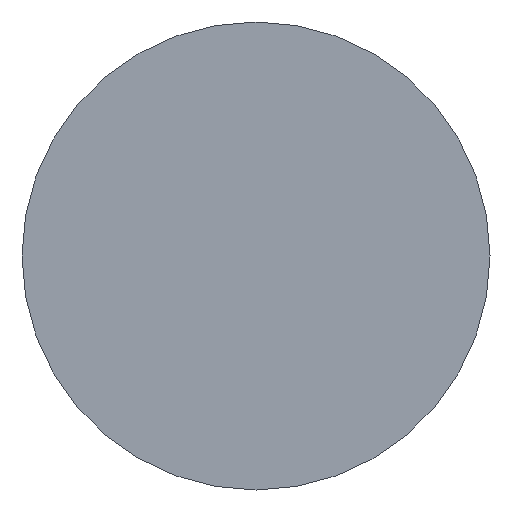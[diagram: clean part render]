
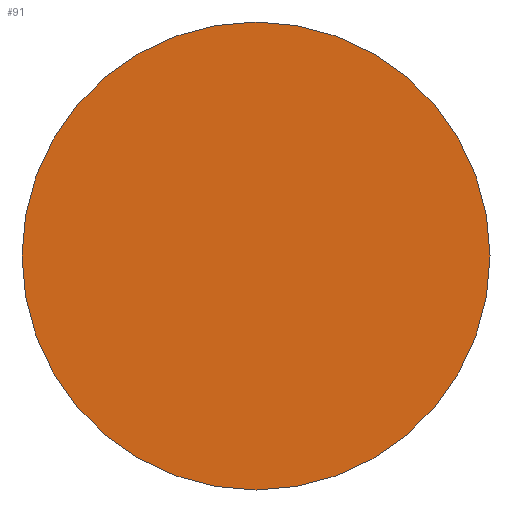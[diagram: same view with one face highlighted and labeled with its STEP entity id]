
A CAD part, left-side view. The second image highlights one B-rep face of the part: STEP entity #91.
In plain terms, the highlighted planar face has unit normal (-1, 0, 0).
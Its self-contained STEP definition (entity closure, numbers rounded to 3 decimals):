
#52=CARTESIAN_POINT('Axis2P3D Location',(0.,0.,0.)) ;
#57=CARTESIAN_POINT('Axis2P3D Location',(0.,0.,0.)) ;
#61=CARTESIAN_POINT('Vertex',(0.,0.,-19.)) ;
#63=CARTESIAN_POINT('Vertex',(0.,19.,0.)) ;
#66=CARTESIAN_POINT('Axis2P3D Location',(0.,0.,0.)) ;
#70=CARTESIAN_POINT('Vertex',(0.,-19.,0.)) ;
#73=CARTESIAN_POINT('Axis2P3D Location',(0.,0.,0.)) ;
#77=CARTESIAN_POINT('Vertex',(0.,0.,19.)) ;
#80=CARTESIAN_POINT('Axis2P3D Location',(0.,0.,0.)) ;
#53=DIRECTION('Axis2P3D Direction',(1.,0.,-0.)) ;
#54=DIRECTION('Axis2P3D XDirection',(-0.,0.,-1.)) ;
#58=DIRECTION('Axis2P3D Direction',(1.,0.,-0.)) ;
#67=DIRECTION('Axis2P3D Direction',(1.,0.,-0.)) ;
#74=DIRECTION('Axis2P3D Direction',(1.,0.,-0.)) ;
#81=DIRECTION('Axis2P3D Direction',(1.,0.,-0.)) ;
#55=AXIS2_PLACEMENT_3D('Plane Axis2P3D',#52,#53,#54) ;
#59=AXIS2_PLACEMENT_3D('Circle Axis2P3D',#57,#58,$) ;
#68=AXIS2_PLACEMENT_3D('Circle Axis2P3D',#66,#67,$) ;
#75=AXIS2_PLACEMENT_3D('Circle Axis2P3D',#73,#74,$) ;
#82=AXIS2_PLACEMENT_3D('Circle Axis2P3D',#80,#81,$) ;
#86=ORIENTED_EDGE('',*,*,#65,.F.) ;
#87=ORIENTED_EDGE('',*,*,#72,.F.) ;
#88=ORIENTED_EDGE('',*,*,#79,.F.) ;
#89=ORIENTED_EDGE('',*,*,#84,.F.) ;
#91=ADVANCED_FACE('395PSF-1',(#90),#56,.F.) ;
#60=CIRCLE('generated circle',#59,19.) ;
#69=CIRCLE('generated circle',#68,19.) ;
#76=CIRCLE('generated circle',#75,19.) ;
#83=CIRCLE('generated circle',#82,19.) ;
#65=EDGE_CURVE('',#62,#64,#60,.T.) ;
#72=EDGE_CURVE('',#71,#62,#69,.T.) ;
#79=EDGE_CURVE('',#78,#71,#76,.T.) ;
#84=EDGE_CURVE('',#64,#78,#83,.T.) ;
#85=EDGE_LOOP('',(#86,#87,#88,#89)) ;
#90=FACE_OUTER_BOUND('',#85,.T.) ;
#56=PLANE('Plane',#55) ;
#62=VERTEX_POINT('',#61) ;
#64=VERTEX_POINT('',#63) ;
#71=VERTEX_POINT('',#70) ;
#78=VERTEX_POINT('',#77) ;
